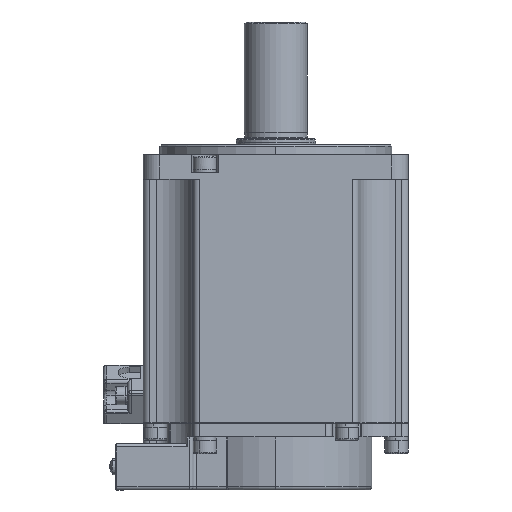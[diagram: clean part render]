
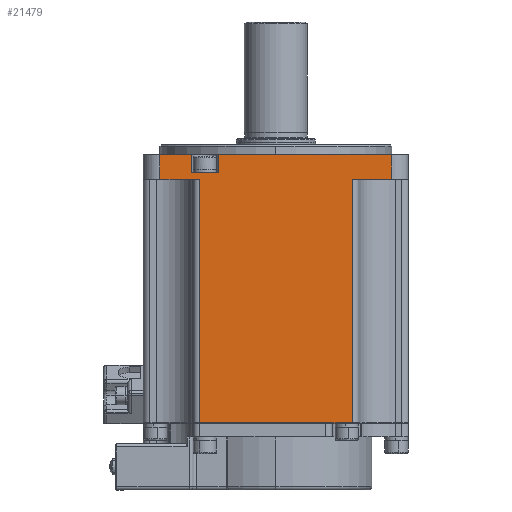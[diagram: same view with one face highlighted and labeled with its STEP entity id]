
A CAD part, left-side view. The second image highlights one B-rep face of the part: STEP entity #21479.
In plain terms, the highlighted planar face has unit normal (-1, 0, 0).
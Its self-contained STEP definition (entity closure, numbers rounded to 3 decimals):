
#18 = VERTEX_POINT ( 'NONE', #13520 ) ;
#989 = VERTEX_POINT ( 'NONE', #29321 ) ;
#1084 = ORIENTED_EDGE ( 'NONE', *, *, #4046, .T. ) ;
#1123 = LINE ( 'NONE', #31208, #27873 ) ;
#1442 = CARTESIAN_POINT ( 'NONE',  ( -39.917, 25.415, 85.653 ) ) ;
#2253 = CARTESIAN_POINT ( 'NONE',  ( -39.935, -22.985, 4.753 ) ) ;
#2308 = DIRECTION ( 'NONE',  ( 0., 0., -1. ) ) ;
#2897 = VERTEX_POINT ( 'NONE', #7037 ) ;
#3473 = VERTEX_POINT ( 'NONE', #4671 ) ;
#3974 = CARTESIAN_POINT ( 'NONE',  ( -39.92, 17.415, 80.153 ) ) ;
#4046 = EDGE_CURVE ( 'NONE', #3473, #15109, #12015, .T. ) ;
#4606 = DIRECTION ( 'NONE',  ( -1., 0., 0. ) ) ;
#4671 = CARTESIAN_POINT ( 'NONE',  ( -39.914, 35.015, 78.153 ) ) ;
#4840 = EDGE_CURVE ( 'NONE', #989, #5429, #23618, .T. ) ;
#5429 = VERTEX_POINT ( 'NONE', #1442 ) ;
#6075 = DIRECTION ( 'NONE',  ( 0., -1., 0. ) ) ;
#6449 = EDGE_CURVE ( 'NONE', #13264, #17873, #19221, .T. ) ;
#7037 = CARTESIAN_POINT ( 'NONE',  ( -39.94, -34.985, 85.653 ) ) ;
#7093 = LINE ( 'NONE', #9665, #20879 ) ;
#7097 = DIRECTION ( 'NONE',  ( 0., 0., 1. ) ) ;
#7107 = LINE ( 'NONE', #26771, #20070 ) ;
#7226 = LINE ( 'NONE', #26069, #14092 ) ;
#7445 = DIRECTION ( 'NONE',  ( 0., 1., 0. ) ) ;
#8016 = DIRECTION ( 'NONE',  ( 0., 0., 1. ) ) ;
#8986 = VERTEX_POINT ( 'NONE', #26851 ) ;
#9106 = CARTESIAN_POINT ( 'NONE',  ( -39.935, -22.985, 78.153 ) ) ;
#9665 = CARTESIAN_POINT ( 'NONE',  ( -39.935, -22.985, 80.153 ) ) ;
#9733 = PLANE ( 'NONE',  #12917 ) ;
#9941 = ORIENTED_EDGE ( 'NONE', *, *, #29225, .T. ) ;
#9965 = LINE ( 'NONE', #30630, #16836 ) ;
#10719 = ORIENTED_EDGE ( 'NONE', *, *, #4840, .T. ) ;
#11566 = VECTOR ( 'NONE', #2308, 1000. ) ;
#12015 = LINE ( 'NONE', #19761, #31045 ) ;
#12032 = DIRECTION ( 'NONE',  ( 0., -1., 0. ) ) ;
#12232 = VECTOR ( 'NONE', #31245, 1000. ) ;
#12523 = ORIENTED_EDGE ( 'NONE', *, *, #28066, .T. ) ;
#12917 = AXIS2_PLACEMENT_3D ( 'NONE', #20155, #4606, #22726 ) ;
#13026 = ORIENTED_EDGE ( 'NONE', *, *, #13620, .T. ) ;
#13244 = DIRECTION ( 'NONE',  ( 0., 0., 1. ) ) ;
#13264 = VERTEX_POINT ( 'NONE', #23460 ) ;
#13287 = DIRECTION ( 'NONE',  ( 0., 0., -1. ) ) ;
#13296 = VECTOR ( 'NONE', #18673, 1000. ) ;
#13520 = CARTESIAN_POINT ( 'NONE',  ( -39.914, 35.015, 85.653 ) ) ;
#13620 = EDGE_CURVE ( 'NONE', #23763, #989, #7093, .T. ) ;
#14092 = VECTOR ( 'NONE', #13287, 1000. ) ;
#14828 = VECTOR ( 'NONE', #28194, 1000. ) ;
#15109 = VERTEX_POINT ( 'NONE', #26054 ) ;
#15332 = ORIENTED_EDGE ( 'NONE', *, *, #32144, .T. ) ;
#15905 = CARTESIAN_POINT ( 'NONE',  ( -39.917, 25.415, 20.953 ) ) ;
#15946 = ORIENTED_EDGE ( 'NONE', *, *, #32602, .F. ) ;
#16836 = VECTOR ( 'NONE', #7445, 1000. ) ;
#17873 = VERTEX_POINT ( 'NONE', #9106 ) ;
#18479 = LINE ( 'NONE', #20433, #11566 ) ;
#18673 = DIRECTION ( 'NONE',  ( 0., 1., 0. ) ) ;
#18951 = CARTESIAN_POINT ( 'NONE',  ( -39.918, 23.015, 4.753 ) ) ;
#19221 = LINE ( 'NONE', #20006, #25265 ) ;
#19761 = CARTESIAN_POINT ( 'NONE',  ( -39.935, -22.985, 78.153 ) ) ;
#20006 = CARTESIAN_POINT ( 'NONE',  ( -39.935, -22.985, 20.953 ) ) ;
#20070 = VECTOR ( 'NONE', #6075, 1000. ) ;
#20155 = CARTESIAN_POINT ( 'NONE',  ( -39.935, -22.985, 20.953 ) ) ;
#20184 = LINE ( 'NONE', #31539, #13296 ) ;
#20433 = CARTESIAN_POINT ( 'NONE',  ( -39.914, 35.015, 20.953 ) ) ;
#20714 = ORIENTED_EDGE ( 'NONE', *, *, #30621, .F. ) ;
#20879 = VECTOR ( 'NONE', #27778, 1000. ) ;
#21479 = ADVANCED_FACE ( 'NONE', ( #26877 ), #9733, .T. ) ;
#21580 = CARTESIAN_POINT ( 'NONE',  ( -39.92, 17.415, 85.653 ) ) ;
#21735 = LINE ( 'NONE', #2253, #14828 ) ;
#22288 = ORIENTED_EDGE ( 'NONE', *, *, #23312, .T. ) ;
#22726 = DIRECTION ( 'NONE',  ( 0., -1., 0. ) ) ;
#23222 = EDGE_CURVE ( 'NONE', #8986, #2897, #1123, .T. ) ;
#23312 = EDGE_CURVE ( 'NONE', #2897, #31714, #20184, .T. ) ;
#23358 = EDGE_LOOP ( 'NONE', ( #29170, #1084, #20714, #15946, #28256, #9941, #30643, #22288, #15332, #13026, #10719, #12523 ) ) ;
#23460 = CARTESIAN_POINT ( 'NONE',  ( -39.935, -22.985, 4.753 ) ) ;
#23618 = LINE ( 'NONE', #15905, #24433 ) ;
#23763 = VERTEX_POINT ( 'NONE', #3974 ) ;
#24433 = VECTOR ( 'NONE', #8016, 1000. ) ;
#25265 = VECTOR ( 'NONE', #7097, 1000. ) ;
#26054 = CARTESIAN_POINT ( 'NONE',  ( -39.918, 23.015, 78.153 ) ) ;
#26069 = CARTESIAN_POINT ( 'NONE',  ( -39.92, 17.415, 20.953 ) ) ;
#26509 = EDGE_CURVE ( 'NONE', #18, #3473, #18479, .T. ) ;
#26771 = CARTESIAN_POINT ( 'NONE',  ( -39.935, -22.985, 78.153 ) ) ;
#26851 = CARTESIAN_POINT ( 'NONE',  ( -39.94, -34.985, 78.153 ) ) ;
#26877 = FACE_OUTER_BOUND ( 'NONE', #23358, .T. ) ;
#27778 = DIRECTION ( 'NONE',  ( 0., 1., 0. ) ) ;
#27873 = VECTOR ( 'NONE', #13244, 1000. ) ;
#28066 = EDGE_CURVE ( 'NONE', #5429, #18, #9965, .T. ) ;
#28194 = DIRECTION ( 'NONE',  ( 0., 1., 0. ) ) ;
#28256 = ORIENTED_EDGE ( 'NONE', *, *, #6449, .T. ) ;
#29170 = ORIENTED_EDGE ( 'NONE', *, *, #26509, .T. ) ;
#29225 = EDGE_CURVE ( 'NONE', #17873, #8986, #7107, .T. ) ;
#29321 = CARTESIAN_POINT ( 'NONE',  ( -39.917, 25.415, 80.153 ) ) ;
#29703 = VERTEX_POINT ( 'NONE', #18951 ) ;
#30621 = EDGE_CURVE ( 'NONE', #29703, #15109, #32879, .T. ) ;
#30630 = CARTESIAN_POINT ( 'NONE',  ( -39.935, -22.985, 85.653 ) ) ;
#30643 = ORIENTED_EDGE ( 'NONE', *, *, #23222, .T. ) ;
#31045 = VECTOR ( 'NONE', #12032, 1000. ) ;
#31208 = CARTESIAN_POINT ( 'NONE',  ( -39.94, -34.985, 20.953 ) ) ;
#31245 = DIRECTION ( 'NONE',  ( 0., 0., 1. ) ) ;
#31539 = CARTESIAN_POINT ( 'NONE',  ( -39.935, -22.985, 85.653 ) ) ;
#31714 = VERTEX_POINT ( 'NONE', #21580 ) ;
#32144 = EDGE_CURVE ( 'NONE', #31714, #23763, #7226, .T. ) ;
#32602 = EDGE_CURVE ( 'NONE', #13264, #29703, #21735, .T. ) ;
#32879 = LINE ( 'NONE', #33455, #12232 ) ;
#33455 = CARTESIAN_POINT ( 'NONE',  ( -39.918, 23.015, 20.953 ) ) ;
